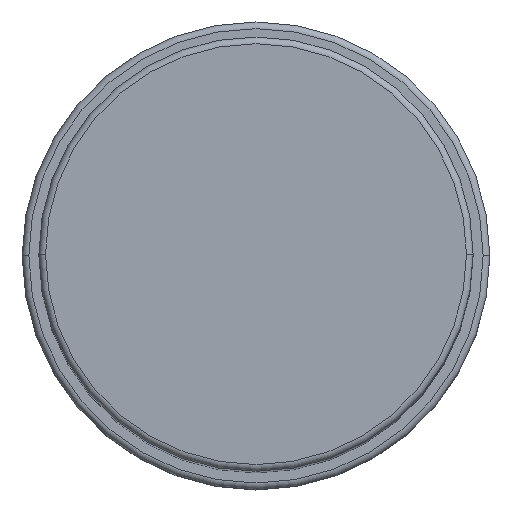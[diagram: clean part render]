
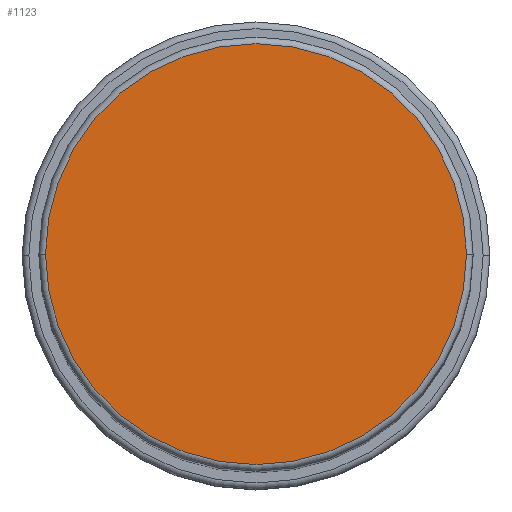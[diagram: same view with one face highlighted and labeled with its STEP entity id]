
A CAD part, top view. The second image highlights one B-rep face of the part: STEP entity #1123.
In plain terms, the highlighted planar face has unit normal (0, 0, 1).
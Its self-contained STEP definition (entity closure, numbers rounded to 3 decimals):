
#90 = FACE_OUTER_BOUND ( 'NONE', #726, .T. ) ;
#93 = CIRCLE ( 'NONE', #131, 31.5 ) ;
#131 = AXIS2_PLACEMENT_3D ( 'NONE', #1150, #403, #643 ) ;
#136 = EDGE_CURVE ( 'NONE', #920, #823, #93, .T. ) ;
#212 = AXIS2_PLACEMENT_3D ( 'NONE', #1424, #1165, #794 ) ;
#293 = CARTESIAN_POINT ( 'NONE',  ( -31.5, 0., 158. ) ) ;
#302 = PLANE ( 'NONE',  #864 ) ;
#403 = DIRECTION ( 'NONE',  ( 0., 0., 1. ) ) ;
#428 = CARTESIAN_POINT ( 'NONE',  ( 0., 0., 158. ) ) ;
#477 = CIRCLE ( 'NONE', #212, 31.5 ) ;
#643 = DIRECTION ( 'NONE',  ( 1., 0., 0. ) ) ;
#726 = EDGE_LOOP ( 'NONE', ( #798, #1208 ) ) ;
#794 = DIRECTION ( 'NONE',  ( 1., 0., 0. ) ) ;
#798 = ORIENTED_EDGE ( 'NONE', *, *, #984, .T. ) ;
#823 = VERTEX_POINT ( 'NONE', #1628 ) ;
#864 = AXIS2_PLACEMENT_3D ( 'NONE', #428, #939, #1549 ) ;
#920 = VERTEX_POINT ( 'NONE', #293 ) ;
#939 = DIRECTION ( 'NONE',  ( 0., 0., 1. ) ) ;
#984 = EDGE_CURVE ( 'NONE', #823, #920, #477, .T. ) ;
#1123 = ADVANCED_FACE ( 'NONE', ( #90 ), #302, .T. ) ;
#1150 = CARTESIAN_POINT ( 'NONE',  ( 0., 0., 158. ) ) ;
#1165 = DIRECTION ( 'NONE',  ( 0., 0., 1. ) ) ;
#1208 = ORIENTED_EDGE ( 'NONE', *, *, #136, .T. ) ;
#1424 = CARTESIAN_POINT ( 'NONE',  ( 0., 0., 158. ) ) ;
#1549 = DIRECTION ( 'NONE',  ( 1., 0., 0. ) ) ;
#1628 = CARTESIAN_POINT ( 'NONE',  ( 31.5, 0., 158. ) ) ;
